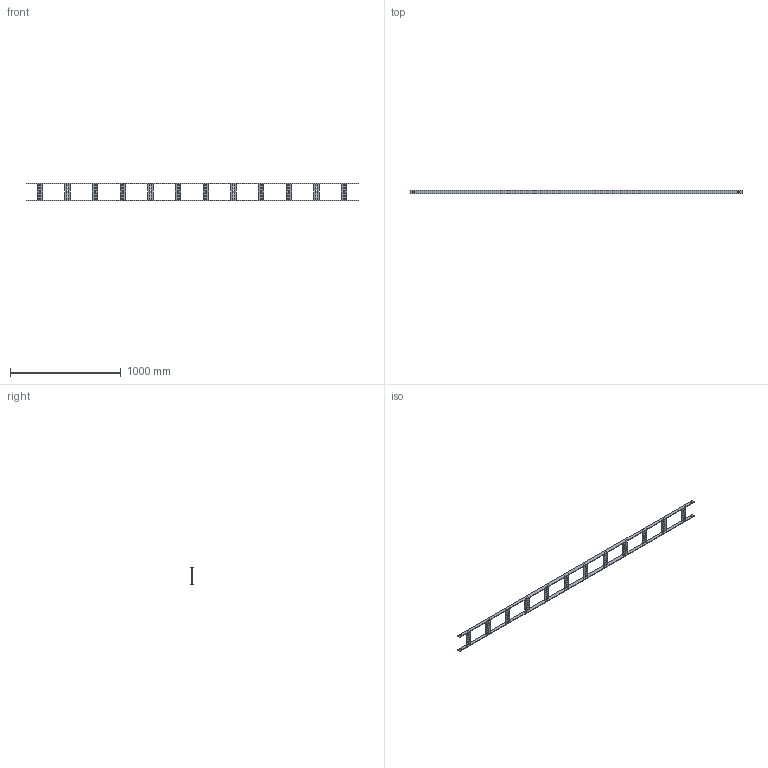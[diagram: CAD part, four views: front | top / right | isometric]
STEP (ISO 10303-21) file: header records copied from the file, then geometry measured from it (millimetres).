
FILE_DESCRIPTION(('Creo Elements/Direct Modeling STEP Export'),'2;1');
FILE_NAME('//pserver/office/EK/ME10-3D/3D-output/SKL 150F.stp','2020-03-10T 9:31:18',(''),(''),'PTC Creo Elements/Direct Modeling STEP processor for AP214 (Solid Model)','PTC Creo Elements/Direct Modeling 19.0C 15-Aug-2015 (C) Parametric Technology GmbH','');
FILE_SCHEMA(('AUTOMOTIVE_DESIGN { 1 0 10303 214 1 1 1 1 }'));
Length unit declared in the file: millimetre
Products named in the file (3): SKLSP_015B.008; SKL_Holm-L3000.1; SKL_150F
Assembly tree (14 placements, depth 2):
  SKL_150F
    SKLSP_015B.008  x12
    SKL_Holm-L3000.1  x2
Bounding box: 3000 x 30 x 160 mm (x, y, z)
Volume: 1218676.1 mm3; surface area: 614425.3 mm2
Topology: 14 solids, 14 shells, 388 faces, 1080 edges, 720 vertices
Faces by surface type: plane 236, cylinder 152
Entity records: 1599 total; most frequent: DIRECTION 270, CARTESIAN_POINT 259, ORIENTED_EDGE 240, EDGE_CURVE 120, AXIS2_PLACEMENT_3D 91, VECTOR 88, LINE 88, VERTEX_POINT 80
